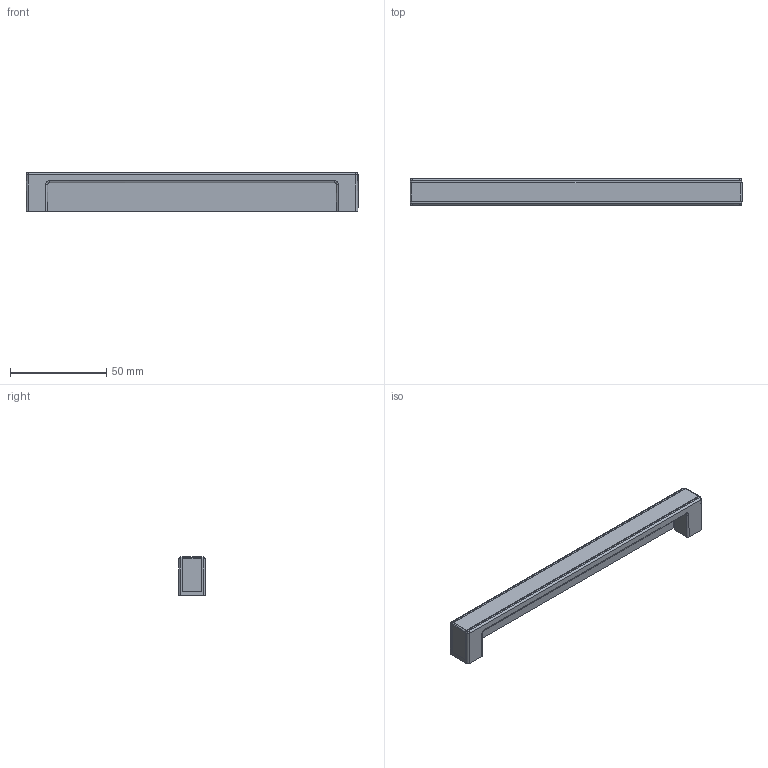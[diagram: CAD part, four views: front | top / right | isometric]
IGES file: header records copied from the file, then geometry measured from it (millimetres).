
Start section: C
Global section: file name: 8086.igs; native system: By Siemens PLM Incorporated; preprocessor: XPlus GENERIC/IGES 16.0.42; author: Author; organization: Title; date: 20210505.132256; units: millimetre
Bounding box: 172.23 x 14 x 20.2 mm (x, y, z)
Surface area: 20067.3 mm2 (no closed solid volume)
Topology: 0 solids, 0 shells, 171 faces, 898 edges, 894 vertices
Faces by surface type: bspline 171
